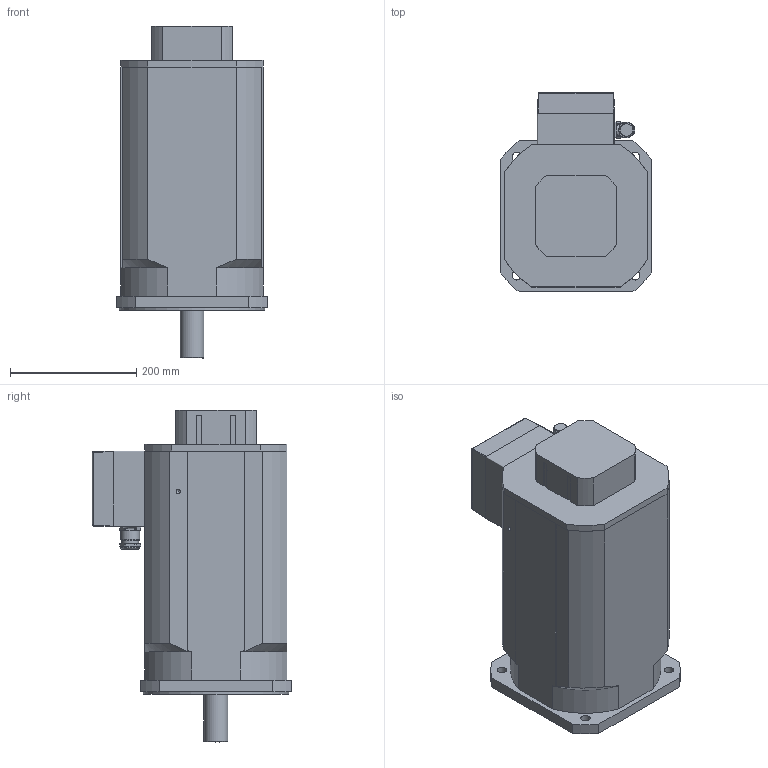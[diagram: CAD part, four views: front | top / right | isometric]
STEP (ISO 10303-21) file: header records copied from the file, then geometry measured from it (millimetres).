
FILE_DESCRIPTION(/* description */ ('Alibre Inc.'),/* implementation_level */ '2;1');
FILE_NAME(/* name */ 'export0',/* time_stamp */ '2011-11-01T08:56:05+01:00',/* author */ (''),/* organization */ (''),/* preprocessor_version */ 'ST-DEVELOPER v12',/* originating_system */ 'Alibre',/* authorisation */ '');
FILE_SCHEMA (('CONFIG_CONTROL_DESIGN'));
Length unit declared in the file: millimetre
Products named in the file (8): ID_1
Bounding box: 240 x 316 x 526 mm (x, y, z)
Volume: 20722636.1 mm3; surface area: 690399.6 mm2
Topology: 7 solids, 7 shells, 264 faces, 681 edges, 441 vertices
Faces by surface type: plane 123, cylinder 107, torus 15, cone 14, bspline 5
Full cylindrical faces by diameter (mm): 2.7 x4, 6.647 x3, 10.106 x1, 15 x5, 20 x6, 22 x2, 25 x2, 26.75 x1, 30 x2, 38 x1, 45 x1, 230 x1
Entity records: 9798 total; most frequent: CARTESIAN_POINT 2861, ORIENTED_EDGE 1246, DIRECTION 1204, EDGE_CURVE 623, AXIS2_PLACEMENT_3D 520, VERTEX_POINT 432, FACE_BOUND 341, EDGE_LOOP 338
